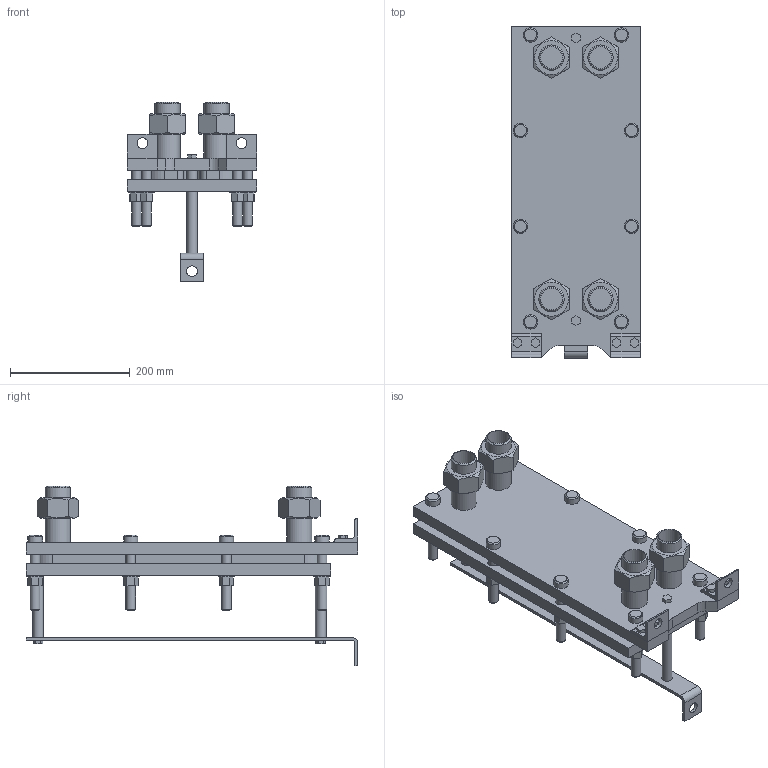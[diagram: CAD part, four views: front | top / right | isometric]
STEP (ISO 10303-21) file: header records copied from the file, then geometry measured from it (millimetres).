
FILE_DESCRIPTION(/* description */ (''),/* implementation_level */ '2;1');
FILE_NAME(/* name */ 'C:\Users\zhuro\Desktop\ENCO\TO\ЭН-004\ЭН-0,5-004-5-1.stp',/* time_stamp */ '2022-06-06T10:44:32+03:00',/* author */ ('zhuro'),/* organization */ (''),/* preprocessor_version */ 'ST-DEVELOPER v18.1',/* originating_system */ 'Autodesk Inventor 2022',/* authorisation */ '');
FILE_SCHEMA (('AUTOMOTIVE_DESIGN { 1 0 10303 214 3 1 1 }'));
Length unit declared in the file: millimetre
Products named in the file (1): ЭН-0,5-004-5-1
Bounding box: 216 x 555 x 301 mm (x, y, z)
Volume: 6583459.7 mm3; surface area: 992776.4 mm2
Topology: 40 solids, 40 shells, 403 faces, 865 edges, 574 vertices
Faces by surface type: plane 272, cylinder 103, cone 28
Full cylindrical faces by diameter (mm): 10 x4, 16 x16, 18 x29, 20 x2, 24 x8, 28 x8, 36.3 x5, 42.3 x9
Entity records: 11137 total; most frequent: CARTESIAN_POINT 1939, DIRECTION 1879, ORIENTED_EDGE 1730, EDGE_CURVE 865, AXIS2_PLACEMENT_3D 658, VERTEX_POINT 574, LINE 563, VECTOR 563
